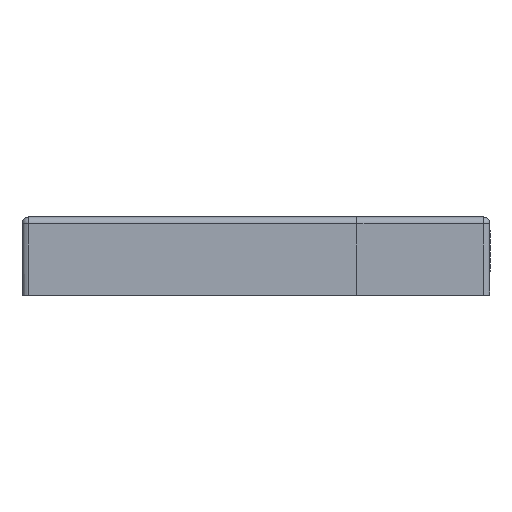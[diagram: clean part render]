
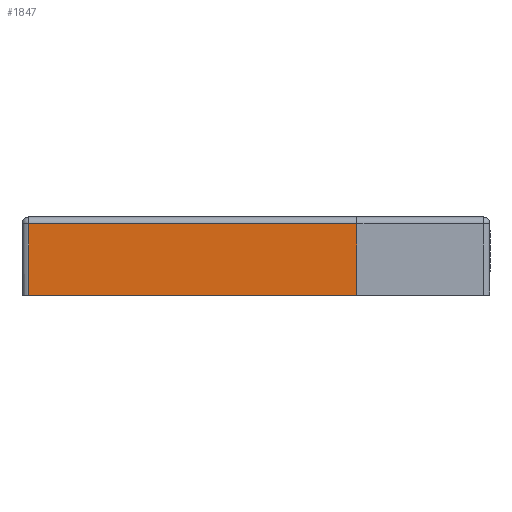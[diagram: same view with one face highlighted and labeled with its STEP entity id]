
A CAD part, front view. The second image highlights one B-rep face of the part: STEP entity #1847.
In plain terms, the highlighted planar face has unit normal (0, -1, -0.018).
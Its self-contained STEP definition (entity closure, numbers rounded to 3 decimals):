
#1847=ADVANCED_FACE('',(#4670),#3571,.F.);
#3571=PLANE('',#34092);
#4670=FACE_OUTER_BOUND('',#6327,.T.);
#6327=EDGE_LOOP('',(#14258,#14259,#14260,#14261,#14262,#14263));
#8438=LINE('',#44466,#11127);
#8439=LINE('',#44478,#11128);
#8440=LINE('',#44480,#11129);
#8441=LINE('',#44482,#11130);
#11127=VECTOR('',#36711,1.);
#11128=VECTOR('',#36716,1.);
#11129=VECTOR('',#36717,1.);
#11130=VECTOR('',#36718,1.);
#14258=ORIENTED_EDGE('',*,*,#27553,.T.);
#14259=ORIENTED_EDGE('',*,*,#27555,.T.);
#14260=ORIENTED_EDGE('',*,*,#27556,.T.);
#14261=ORIENTED_EDGE('',*,*,#27557,.T.);
#14262=ORIENTED_EDGE('',*,*,#27558,.T.);
#14263=ORIENTED_EDGE('',*,*,#27559,.T.);
#24149=VERTEX_POINT('',#44465);
#24150=VERTEX_POINT('',#44467);
#24151=VERTEX_POINT('',#44472);
#24152=VERTEX_POINT('',#44477);
#24153=VERTEX_POINT('',#44479);
#24154=VERTEX_POINT('',#44481);
#27553=EDGE_CURVE('',#24150,#24149,#8438,.T.);
#27555=EDGE_CURVE('',#24149,#24151,#32166,.T.);
#27556=EDGE_CURVE('',#24151,#24152,#32167,.T.);
#27557=EDGE_CURVE('',#24152,#24153,#8439,.T.);
#27558=EDGE_CURVE('',#24153,#24154,#8440,.T.);
#27559=EDGE_CURVE('',#24154,#24150,#8441,.T.);
#32166=B_SPLINE_CURVE_WITH_KNOTS('',1,(#44470,#44471),.UNSPECIFIED.,.F.,
 .F.,(2,2),(0.,1.),.UNSPECIFIED.);
#32167=B_SPLINE_CURVE_WITH_KNOTS('',3,(#44473,#44474,#44475,#44476),
 .UNSPECIFIED.,.F.,.F.,(4,4),(0.,1.),.UNSPECIFIED.);
#34092=AXIS2_PLACEMENT_3D('',#44483,#36719,#36720);
#36711=DIRECTION('',(-1.,0.,0.));
#36716=DIRECTION('',(1.,0.,0.));
#36717=DIRECTION('',(1.,0.,0.));
#36718=DIRECTION('',(0.,-0.017,1.));
#36719=DIRECTION('',(0.,1.,0.017));
#36720=DIRECTION('',(0.,0.017,-1.));
#44465=CARTESIAN_POINT('',(-86.492,25.694,0.));
#44466=CARTESIAN_POINT('',(-36.992,25.694,0.));
#44467=CARTESIAN_POINT('',(-14.992,25.694,0.));
#44470=CARTESIAN_POINT('',(-86.492,25.694,0.));
#44471=CARTESIAN_POINT('',(-86.492,25.964,-15.474));
#44472=CARTESIAN_POINT('',(-86.492,25.964,-15.474));
#44473=CARTESIAN_POINT('',(-86.492,25.964,-15.474));
#44474=CARTESIAN_POINT('',(-77.325,25.964,-15.474));
#44475=CARTESIAN_POINT('',(-68.159,25.964,-15.474));
#44476=CARTESIAN_POINT('',(-58.992,25.964,-15.474));
#44477=CARTESIAN_POINT('',(-58.992,25.964,-15.474));
#44478=CARTESIAN_POINT('',(-47.992,25.964,-15.474));
#44479=CARTESIAN_POINT('',(-36.992,25.964,-15.474));
#44480=CARTESIAN_POINT('',(-25.992,25.964,-15.474));
#44481=CARTESIAN_POINT('',(-14.992,25.964,-15.474));
#44482=CARTESIAN_POINT('',(-14.992,25.829,-7.737));
#44483=CARTESIAN_POINT('',(-14.242,25.694,0.029));
